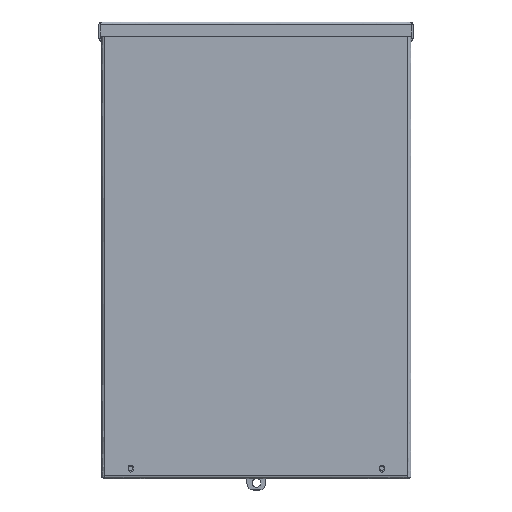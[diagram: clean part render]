
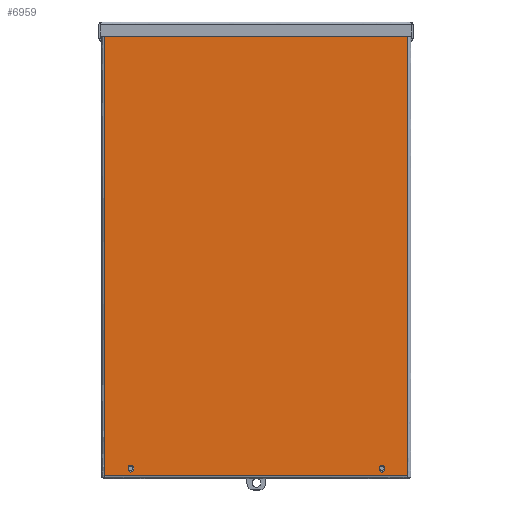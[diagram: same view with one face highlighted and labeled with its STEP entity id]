
A CAD part, top view. The second image highlights one B-rep face of the part: STEP entity #6959.
In plain terms, the highlighted free-form (B-spline) face has degree [1, 1] with [2, 2] control points.
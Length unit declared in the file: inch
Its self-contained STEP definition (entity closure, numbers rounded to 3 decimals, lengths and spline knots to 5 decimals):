
#6174=CARTESIAN_POINT('V71',(0.9855,-0.055,
   17.622));
#6175=VERTEX_POINT('V71',#6174);
#6183=CARTESIAN_POINT('V74',(1.2045,-0.055,
   17.622));
#6184=VERTEX_POINT('V74',#6183);
#6185=CARTESIAN_POINT('E88',(1.2045,-0.055,
   17.622));
#6186=CARTESIAN_POINT('E88',(1.2045,-0.055,
   17.5125));
#6187=CARTESIAN_POINT('E88',(1.095,-0.055,
   17.5125));
#6188=CARTESIAN_POINT('E88',(0.9855,-0.055,
   17.5125));
#6189=CARTESIAN_POINT('E88',(0.9855,-0.055,
   17.622));
#6197=(BOUNDED_CURVE()B_SPLINE_CURVE(2,(#6185,#6186,#6187,#6188,
   #6189),.CIRCULAR_ARC.,.F.,.U.)B_SPLINE_CURVE_WITH_KNOTS((3,2,3),
   (0.0,0.5,1.0),.UNSPECIFIED.)CURVE()
   GEOMETRIC_REPRESENTATION_ITEM()RATIONAL_B_SPLINE_CURVE((1.0,
   0.707,1.0,0.707,1.0))REPRESENTATION_ITEM(
   'E88'));
#6198=EDGE_CURVE('E88',#6184,#6175,#6197,.T.);
#6231=CARTESIAN_POINT('V73',(1.2045,-0.055,
   17.684));
#6232=VERTEX_POINT('V73',#6231);
#6233=CARTESIAN_POINT('E87',(1.2045,-0.055,
   17.684));
#6234=CARTESIAN_POINT('E87',(1.2045,-0.055,
   17.622));
#6235=QUASI_UNIFORM_CURVE('E87',1,(#6233,#6234),.POLYLINE_FORM.,.F.,
   .U.);
#6236=EDGE_CURVE('E87',#6232,#6184,#6235,.T.);
#6272=CARTESIAN_POINT('V72',(0.9855,-0.055,
   17.684));
#6273=VERTEX_POINT('V72',#6272);
#6274=CARTESIAN_POINT('E86',(0.9855,-0.055,
   17.684));
#6275=CARTESIAN_POINT('E86',(0.9855,-0.055,
   17.7935));
#6276=CARTESIAN_POINT('E86',(1.095,-0.055,
   17.7935));
#6277=CARTESIAN_POINT('E86',(1.2045,-0.055,
   17.7935));
#6278=CARTESIAN_POINT('E86',(1.2045,-0.055,
   17.684));
#6286=(BOUNDED_CURVE()B_SPLINE_CURVE(2,(#6274,#6275,#6276,#6277,
   #6278),.CIRCULAR_ARC.,.F.,.U.)B_SPLINE_CURVE_WITH_KNOTS((3,2,3),
   (0.0,0.5,1.0),.UNSPECIFIED.)CURVE()
   GEOMETRIC_REPRESENTATION_ITEM()RATIONAL_B_SPLINE_CURVE((1.0,
   0.707,1.0,0.707,1.0))REPRESENTATION_ITEM(
   'E86'));
#6287=EDGE_CURVE('E86',#6273,#6232,#6286,.T.);
#6320=CARTESIAN_POINT('E85',(0.9855,-0.055,
   17.622));
#6321=CARTESIAN_POINT('E85',(0.9855,-0.055,
   17.684));
#6322=QUASI_UNIFORM_CURVE('E85',1,(#6320,#6321),.POLYLINE_FORM.,.F.,
   .U.);
#6323=EDGE_CURVE('E85',#6175,#6273,#6322,.T.);
#6352=CARTESIAN_POINT('V67',(11.2045,-0.055,
   17.684));
#6353=VERTEX_POINT('V67',#6352);
#6361=CARTESIAN_POINT('V70',(10.9855,-0.055,
   17.684));
#6362=VERTEX_POINT('V70',#6361);
#6363=CARTESIAN_POINT('E84',(10.9855,-0.055,
   17.684));
#6364=CARTESIAN_POINT('E84',(10.9855,-0.055,
   17.7935));
#6365=CARTESIAN_POINT('E84',(11.095,-0.055,
   17.7935));
#6366=CARTESIAN_POINT('E84',(11.2045,-0.055,
   17.7935));
#6367=CARTESIAN_POINT('E84',(11.2045,-0.055,
   17.684));
#6375=(BOUNDED_CURVE()B_SPLINE_CURVE(2,(#6363,#6364,#6365,#6366,
   #6367),.CIRCULAR_ARC.,.F.,.U.)B_SPLINE_CURVE_WITH_KNOTS((3,2,3),
   (0.0,0.5,1.0),.UNSPECIFIED.)CURVE()
   GEOMETRIC_REPRESENTATION_ITEM()RATIONAL_B_SPLINE_CURVE((1.0,
   0.707,1.0,0.707,1.0))REPRESENTATION_ITEM(
   'E84'));
#6376=EDGE_CURVE('E84',#6362,#6353,#6375,.T.);
#6409=CARTESIAN_POINT('V69',(10.9855,-0.055,
   17.622));
#6410=VERTEX_POINT('V69',#6409);
#6411=CARTESIAN_POINT('E83',(10.9855,-0.055,
   17.622));
#6412=CARTESIAN_POINT('E83',(10.9855,-0.055,
   17.684));
#6413=QUASI_UNIFORM_CURVE('E83',1,(#6411,#6412),.POLYLINE_FORM.,.F.,
   .U.);
#6414=EDGE_CURVE('E83',#6410,#6362,#6413,.T.);
#6450=CARTESIAN_POINT('V68',(11.2045,-0.055,
   17.622));
#6451=VERTEX_POINT('V68',#6450);
#6452=CARTESIAN_POINT('E82',(11.2045,-0.055,
   17.622));
#6453=CARTESIAN_POINT('E82',(11.2045,-0.055,
   17.5125));
#6454=CARTESIAN_POINT('E82',(11.095,-0.055,
   17.5125));
#6455=CARTESIAN_POINT('E82',(10.9855,-0.055,
   17.5125));
#6456=CARTESIAN_POINT('E82',(10.9855,-0.055,
   17.622));
#6464=(BOUNDED_CURVE()B_SPLINE_CURVE(2,(#6452,#6453,#6454,#6455,
   #6456),.CIRCULAR_ARC.,.F.,.U.)B_SPLINE_CURVE_WITH_KNOTS((3,2,3),
   (0.0,0.5,1.0),.UNSPECIFIED.)CURVE()
   GEOMETRIC_REPRESENTATION_ITEM()RATIONAL_B_SPLINE_CURVE((1.0,
   0.707,1.0,0.707,1.0))REPRESENTATION_ITEM(
   'E82'));
#6465=EDGE_CURVE('E82',#6451,#6410,#6464,.T.);
#6498=CARTESIAN_POINT('E81',(11.2045,-0.055,
   17.684));
#6499=CARTESIAN_POINT('E81',(11.2045,-0.055,
   17.622));
#6500=QUASI_UNIFORM_CURVE('E81',1,(#6498,#6499),.POLYLINE_FORM.,.F.,
   .U.);
#6501=EDGE_CURVE('E81',#6353,#6451,#6500,.T.);
#6856=CARTESIAN_POINT('V44',(0.06,-0.055,
   17.945));
#6857=VERTEX_POINT('V44',#6856);
#6894=CARTESIAN_POINT('V45',(0.06,-0.055,
   0.));
#6895=VERTEX_POINT('V45',#6894);
#6896=CARTESIAN_POINT('E52',(0.06,-0.055,
   0.));
#6897=CARTESIAN_POINT('E52',(0.06,-0.055,
   17.945));
#6898=QUASI_UNIFORM_CURVE('E52',1,(#6896,#6897),.POLYLINE_FORM.,.F.,
   .U.);
#6899=EDGE_CURVE('E52',#6895,#6857,#6898,.T.);
#6920=CARTESIAN_POINT('F21',(12.13,-0.055,
   0.));
#6921=CARTESIAN_POINT('F21',(12.13,-0.055,
   17.945));
#6922=CARTESIAN_POINT('F21',(0.06,-0.055,
   0.0));
#6923=CARTESIAN_POINT('F21',(0.06,-0.055,
   17.945));
#6924=B_SPLINE_SURFACE_WITH_KNOTS('F21',1,1,((#6920,#6922),(#6921,
   #6923)),.PLANE_SURF.,.F.,.F.,.U.,(2,2),(2,2),(
   0.0001,1.48655),(0.0001,
   0.9999),.UNSPECIFIED.);
#6925=CARTESIAN_POINT('V41',(12.13,-0.055,
   0.));
#6926=VERTEX_POINT('V41',#6925);
#6927=CARTESIAN_POINT('E80',(0.06,-0.055,
   0.0));
#6928=CARTESIAN_POINT('E80',(12.13,-0.055,
   0.0));
#6929=QUASI_UNIFORM_CURVE('E80',1,(#6927,#6928),.POLYLINE_FORM.,.F.,
   .U.);
#6930=EDGE_CURVE('E80',#6895,#6926,#6929,.T.);
#6931=ORIENTED_EDGE('E80',*,*,#6930,.T.);
#6932=CARTESIAN_POINT('V40',(12.13,-0.055,
   17.945));
#6933=VERTEX_POINT('V40',#6932);
#6934=CARTESIAN_POINT('E48',(12.13,-0.055,
   17.945));
#6935=CARTESIAN_POINT('E48',(12.13,-0.055,
   0.));
#6936=QUASI_UNIFORM_CURVE('E48',1,(#6934,#6935),.POLYLINE_FORM.,.F.,
   .U.);
#6937=EDGE_CURVE('E48',#6933,#6926,#6936,.T.);
#6938=ORIENTED_EDGE('E48',*,*,#6937,.F.);
#6939=CARTESIAN_POINT('E60',(0.06,-0.055,
   17.945));
#6940=CARTESIAN_POINT('E60',(12.13,-0.055,
   17.945));
#6941=QUASI_UNIFORM_CURVE('E60',1,(#6939,#6940),.POLYLINE_FORM.,.F.,
   .U.);
#6942=EDGE_CURVE('E60',#6857,#6933,#6941,.T.);
#6943=ORIENTED_EDGE('E60',*,*,#6942,.F.);
#6944=ORIENTED_EDGE('E52',*,*,#6899,.F.);
#6945=EDGE_LOOP('F21',(#6931,#6938,#6943,#6944));
#6946=FACE_OUTER_BOUND('F21',#6945,.T.);
#6947=ORIENTED_EDGE('E81',*,*,#6501,.T.);
#6948=ORIENTED_EDGE('E82',*,*,#6465,.T.);
#6949=ORIENTED_EDGE('E83',*,*,#6414,.T.);
#6950=ORIENTED_EDGE('E84',*,*,#6376,.T.);
#6951=EDGE_LOOP('F21',(#6947,#6948,#6949,#6950));
#6952=FACE_BOUND('F21',#6951,.T.);
#6953=ORIENTED_EDGE('E85',*,*,#6323,.T.);
#6954=ORIENTED_EDGE('E86',*,*,#6287,.T.);
#6955=ORIENTED_EDGE('E87',*,*,#6236,.T.);
#6956=ORIENTED_EDGE('E88',*,*,#6198,.T.);
#6957=EDGE_LOOP('F21',(#6953,#6954,#6955,#6956));
#6958=FACE_BOUND('F21',#6957,.T.);
#6959=ADVANCED_FACE('F21',(#6946,#6952,#6958),#6924,.T.);
